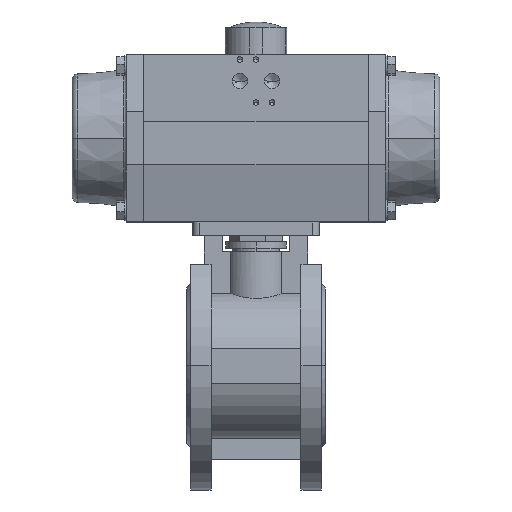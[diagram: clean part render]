
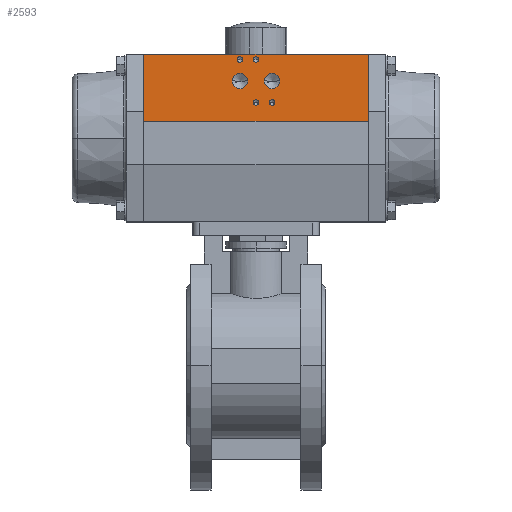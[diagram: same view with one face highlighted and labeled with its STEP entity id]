
A CAD part, top view. The second image highlights one B-rep face of the part: STEP entity #2593.
In plain terms, the highlighted planar face has unit normal (0, 0, 1) as drawn and (1, 0, 0) by its records, which use the part's own axes.
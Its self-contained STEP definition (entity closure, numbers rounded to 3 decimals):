
#410 = CARTESIAN_POINT ( 'NONE',  ( 57.5, 12.5, -83.75 ) ) ;
#413 = LINE ( 'NONE', #410, #5907 ) ;
#414 = LINE ( 'NONE', #421, #5905 ) ;
#416 = LINE ( 'NONE', #417, #5906 ) ;
#417 = CARTESIAN_POINT ( 'NONE',  ( 57.5, 12.5, 83.75 ) ) ;
#418 = DIRECTION ( 'NONE',  ( 0., 1., 0. ) ) ;
#420 = DIRECTION ( 'NONE',  ( 0., 0., 1. ) ) ;
#421 = CARTESIAN_POINT ( 'NONE',  ( 57.5, 12.5, -83.75 ) ) ;
#423 = DIRECTION ( 'NONE',  ( 0., 1., 0. ) ) ;
#1821 = CARTESIAN_POINT ( 'NONE',  ( 57.5, 12.5, 83.75 ) ) ;
#1823 = CARTESIAN_POINT ( 'NONE',  ( 57.5, 62.5, 83.75 ) ) ;
#1824 = CARTESIAN_POINT ( 'NONE',  ( 57.5, 62.5, -83.75 ) ) ;
#1829 = CARTESIAN_POINT ( 'NONE',  ( 57.5, 12.5, -83.75 ) ) ;
#1965 = CARTESIAN_POINT ( 'NONE',  ( 57.5, 42.5, 6.277 ) ) ;
#1966 = CARTESIAN_POINT ( 'NONE',  ( 57.5, 42.5, 17.722 ) ) ;
#2416 = EDGE_CURVE ( 'NONE', #3753, #3754, #13003, .T. ) ;
#2417 = EDGE_CURVE ( 'NONE', #3748, #3749, #12999, .T. ) ;
#2418 = EDGE_CURVE ( 'NONE', #3662, #3663, #12996, .T. ) ;
#2593 = ADVANCED_FACE ( 'NONE', ( #9005, #9001, #9008, #9010, #9004, #9006, #9007 ), #9009, .T. ) ;
#2847 = EDGE_CURVE ( 'NONE', #3518, #3520, #416, .T. ) ;
#2848 = EDGE_CURVE ( 'NONE', #3526, #3518, #413, .T. ) ;
#2849 = EDGE_CURVE ( 'NONE', #3526, #3521, #414, .T. ) ;
#3518 = VERTEX_POINT ( 'NONE', #1821 ) ;
#3520 = VERTEX_POINT ( 'NONE', #1823 ) ;
#3521 = VERTEX_POINT ( 'NONE', #1824 ) ;
#3526 = VERTEX_POINT ( 'NONE', #1829 ) ;
#3662 = VERTEX_POINT ( 'NONE', #1965 ) ;
#3663 = VERTEX_POINT ( 'NONE', #1966 ) ;
#3748 = VERTEX_POINT ( 'NONE', #10104 ) ;
#3749 = VERTEX_POINT ( 'NONE', #10105 ) ;
#3753 = VERTEX_POINT ( 'NONE', #10092 ) ;
#3754 = VERTEX_POINT ( 'NONE', #10108 ) ;
#3758 = VERTEX_POINT ( 'NONE', #10112 ) ;
#3759 = VERTEX_POINT ( 'NONE', #10113 ) ;
#3763 = VERTEX_POINT ( 'NONE', #10117 ) ;
#3764 = VERTEX_POINT ( 'NONE', #10118 ) ;
#3768 = VERTEX_POINT ( 'NONE', #10122 ) ;
#3769 = VERTEX_POINT ( 'NONE', #10123 ) ;
#4146 = CARTESIAN_POINT ( 'NONE',  ( 57.5, 42.5, -12. ) ) ;
#4147 = DIRECTION ( 'NONE',  ( 1., 0., 0. ) ) ;
#4148 = DIRECTION ( 'NONE',  ( 0., 0., -1. ) ) ;
#4165 = CARTESIAN_POINT ( 'NONE',  ( 57.5, 42.5, 12. ) ) ;
#4166 = DIRECTION ( 'NONE',  ( 1., 0., 0. ) ) ;
#4167 = DIRECTION ( 'NONE',  ( 0., 0., -1. ) ) ;
#5905 = VECTOR ( 'NONE', #423, 1000. ) ;
#5906 = VECTOR ( 'NONE', #418, 1000. ) ;
#5907 = VECTOR ( 'NONE', #420, 1000. ) ;
#6249 = CARTESIAN_POINT ( 'NONE',  ( 57.5, 58.5, 0. ) ) ;
#6250 = DIRECTION ( 'NONE',  ( 1., 0., 0. ) ) ;
#6251 = DIRECTION ( 'NONE',  ( 0., 0., -1. ) ) ;
#6253 = CARTESIAN_POINT ( 'NONE',  ( 57.5, 42.5, -12. ) ) ;
#6254 = DIRECTION ( 'NONE',  ( 1., 0., 0. ) ) ;
#6255 = DIRECTION ( 'NONE',  ( 0., 0., -1. ) ) ;
#6258 = CARTESIAN_POINT ( 'NONE',  ( 57.5, 42.5, 12. ) ) ;
#6259 = DIRECTION ( 'NONE',  ( 1., 0., 0. ) ) ;
#6260 = DIRECTION ( 'NONE',  ( 0., 0., -1. ) ) ;
#6679 = EDGE_LOOP ( 'NONE', ( #11285, #11284, #11283, #11282 ) ) ;
#6680 = EDGE_LOOP ( 'NONE', ( #11293, #11292 ) ) ;
#6681 = EDGE_LOOP ( 'NONE', ( #11289, #11288 ) ) ;
#6682 = EDGE_LOOP ( 'NONE', ( #11297, #11296 ) ) ;
#6683 = EDGE_LOOP ( 'NONE', ( #11291, #11290 ) ) ;
#6687 = EDGE_LOOP ( 'NONE', ( #11287, #11286 ) ) ;
#6688 = EDGE_LOOP ( 'NONE', ( #11295, #11294 ) ) ;
#7005 = EDGE_CURVE ( 'NONE', #3769, #3768, #13464, .T. ) ;
#8471 = EDGE_CURVE ( 'NONE', #3521, #3520, #15804, .T. ) ;
#8473 = EDGE_CURVE ( 'NONE', #3768, #3769, #13878, .T. ) ;
#8474 = EDGE_CURVE ( 'NONE', #3763, #3764, #13879, .T. ) ;
#8475 = EDGE_CURVE ( 'NONE', #3758, #3759, #13873, .T. ) ;
#8509 = EDGE_CURVE ( 'NONE', #3764, #3763, #13923, .T. ) ;
#8517 = EDGE_CURVE ( 'NONE', #3759, #3758, #13937, .T. ) ;
#8523 = EDGE_CURVE ( 'NONE', #3754, #3753, #13945, .T. ) ;
#8530 = EDGE_CURVE ( 'NONE', #3749, #3748, #13955, .T. ) ;
#8536 = EDGE_CURVE ( 'NONE', #3663, #3662, #13963, .T. ) ;
#8997 = CARTESIAN_POINT ( 'NONE',  ( 57.5, 12.5, -83.75 ) ) ;
#9001 = FACE_BOUND ( 'NONE', #6688, .T. ) ;
#9004 = FACE_BOUND ( 'NONE', #6681, .T. ) ;
#9005 = FACE_BOUND ( 'NONE', #6682, .T. ) ;
#9006 = FACE_BOUND ( 'NONE', #6687, .T. ) ;
#9007 = FACE_OUTER_BOUND ( 'NONE', #6679, .T. ) ;
#9008 = FACE_BOUND ( 'NONE', #6680, .T. ) ;
#9009 = PLANE ( 'NONE',  #9763 ) ;
#9010 = FACE_BOUND ( 'NONE', #6683, .T. ) ;
#9013 = DIRECTION ( 'NONE',  ( 1., 0., 0. ) ) ;
#9014 = DIRECTION ( 'NONE',  ( 0., 1., 0. ) ) ;
#9763 = AXIS2_PLACEMENT_3D ( 'NONE', #8997, #9013, #9014 ) ;
#10092 = CARTESIAN_POINT ( 'NONE',  ( 57.5, 58.5, -2.1 ) ) ;
#10104 = CARTESIAN_POINT ( 'NONE',  ( 57.5, 42.5, -17.722 ) ) ;
#10105 = CARTESIAN_POINT ( 'NONE',  ( 57.5, 42.5, -6.277 ) ) ;
#10108 = CARTESIAN_POINT ( 'NONE',  ( 57.5, 58.5, 2.1 ) ) ;
#10112 = CARTESIAN_POINT ( 'NONE',  ( 57.5, 26.5, -2.1 ) ) ;
#10113 = CARTESIAN_POINT ( 'NONE',  ( 57.5, 26.5, 2.1 ) ) ;
#10117 = CARTESIAN_POINT ( 'NONE',  ( 57.5, 26.5, -14.1 ) ) ;
#10118 = CARTESIAN_POINT ( 'NONE',  ( 57.5, 26.5, -9.9 ) ) ;
#10122 = CARTESIAN_POINT ( 'NONE',  ( 57.5, 58.5, 9.9 ) ) ;
#10123 = CARTESIAN_POINT ( 'NONE',  ( 57.5, 58.5, 14.1 ) ) ;
#10742 = CARTESIAN_POINT ( 'NONE',  ( 57.5, 58.5, 12. ) ) ;
#10743 = DIRECTION ( 'NONE',  ( 1., 0., 0. ) ) ;
#10744 = DIRECTION ( 'NONE',  ( 0., 0., -1. ) ) ;
#11282 = ORIENTED_EDGE ( 'NONE', *, *, #2849, .T. ) ;
#11283 = ORIENTED_EDGE ( 'NONE', *, *, #2848, .F. ) ;
#11284 = ORIENTED_EDGE ( 'NONE', *, *, #2847, .F. ) ;
#11285 = ORIENTED_EDGE ( 'NONE', *, *, #8471, .T. ) ;
#11286 = ORIENTED_EDGE ( 'NONE', *, *, #8536, .F. ) ;
#11287 = ORIENTED_EDGE ( 'NONE', *, *, #2418, .F. ) ;
#11288 = ORIENTED_EDGE ( 'NONE', *, *, #8530, .F. ) ;
#11289 = ORIENTED_EDGE ( 'NONE', *, *, #2417, .F. ) ;
#11290 = ORIENTED_EDGE ( 'NONE', *, *, #8523, .F. ) ;
#11291 = ORIENTED_EDGE ( 'NONE', *, *, #2416, .F. ) ;
#11292 = ORIENTED_EDGE ( 'NONE', *, *, #8517, .F. ) ;
#11293 = ORIENTED_EDGE ( 'NONE', *, *, #8475, .F. ) ;
#11294 = ORIENTED_EDGE ( 'NONE', *, *, #8509, .F. ) ;
#11295 = ORIENTED_EDGE ( 'NONE', *, *, #8474, .F. ) ;
#11296 = ORIENTED_EDGE ( 'NONE', *, *, #7005, .F. ) ;
#11297 = ORIENTED_EDGE ( 'NONE', *, *, #8473, .F. ) ;
#12988 = AXIS2_PLACEMENT_3D ( 'NONE', #6258, #6259, #6260 ) ;
#12990 = AXIS2_PLACEMENT_3D ( 'NONE', #6253, #6254, #6255 ) ;
#12993 = AXIS2_PLACEMENT_3D ( 'NONE', #6249, #6250, #6251 ) ;
#12996 = CIRCLE ( 'NONE', #12988, 5.722 ) ;
#12999 = CIRCLE ( 'NONE', #12990, 5.722 ) ;
#13003 = CIRCLE ( 'NONE', #12993, 2.1 ) ;
#13464 = CIRCLE ( 'NONE', #13470, 2.1 ) ;
#13470 = AXIS2_PLACEMENT_3D ( 'NONE', #10742, #10743, #10744 ) ;
#13873 = CIRCLE ( 'NONE', #13884, 2.1 ) ;
#13876 = VECTOR ( 'NONE', #15806, 1000. ) ;
#13878 = CIRCLE ( 'NONE', #13880, 2.1 ) ;
#13879 = CIRCLE ( 'NONE', #13882, 2.1 ) ;
#13880 = AXIS2_PLACEMENT_3D ( 'NONE', #15811, #15812, #15813 ) ;
#13882 = AXIS2_PLACEMENT_3D ( 'NONE', #15815, #15816, #15817 ) ;
#13884 = AXIS2_PLACEMENT_3D ( 'NONE', #15820, #15821, #15822 ) ;
#13923 = CIRCLE ( 'NONE', #13926, 2.1 ) ;
#13926 = AXIS2_PLACEMENT_3D ( 'NONE', #15998, #15999, #16000 ) ;
#13937 = CIRCLE ( 'NONE', #13941, 2.1 ) ;
#13941 = AXIS2_PLACEMENT_3D ( 'NONE', #16022, #16023, #16024 ) ;
#13945 = CIRCLE ( 'NONE', #13949, 2.1 ) ;
#13949 = AXIS2_PLACEMENT_3D ( 'NONE', #16039, #16040, #16041 ) ;
#13955 = CIRCLE ( 'NONE', #13959, 5.722 ) ;
#13959 = AXIS2_PLACEMENT_3D ( 'NONE', #4146, #4147, #4148 ) ;
#13963 = CIRCLE ( 'NONE', #13967, 5.722 ) ;
#13967 = AXIS2_PLACEMENT_3D ( 'NONE', #4165, #4166, #4167 ) ;
#15804 = LINE ( 'NONE', #15805, #13876 ) ;
#15805 = CARTESIAN_POINT ( 'NONE',  ( 57.5, 62.5, -83.75 ) ) ;
#15806 = DIRECTION ( 'NONE',  ( 0., 0., 1. ) ) ;
#15811 = CARTESIAN_POINT ( 'NONE',  ( 57.5, 58.5, 12. ) ) ;
#15812 = DIRECTION ( 'NONE',  ( 1., 0., 0. ) ) ;
#15813 = DIRECTION ( 'NONE',  ( 0., 0., -1. ) ) ;
#15815 = CARTESIAN_POINT ( 'NONE',  ( 57.5, 26.5, -12. ) ) ;
#15816 = DIRECTION ( 'NONE',  ( 1., 0., 0. ) ) ;
#15817 = DIRECTION ( 'NONE',  ( 0., 0., -1. ) ) ;
#15820 = CARTESIAN_POINT ( 'NONE',  ( 57.5, 26.5, 0. ) ) ;
#15821 = DIRECTION ( 'NONE',  ( 1., 0., 0. ) ) ;
#15822 = DIRECTION ( 'NONE',  ( 0., 0., -1. ) ) ;
#15998 = CARTESIAN_POINT ( 'NONE',  ( 57.5, 26.5, -12. ) ) ;
#15999 = DIRECTION ( 'NONE',  ( 1., 0., 0. ) ) ;
#16000 = DIRECTION ( 'NONE',  ( 0., 0., -1. ) ) ;
#16022 = CARTESIAN_POINT ( 'NONE',  ( 57.5, 26.5, 0. ) ) ;
#16023 = DIRECTION ( 'NONE',  ( 1., 0., 0. ) ) ;
#16024 = DIRECTION ( 'NONE',  ( 0., 0., -1. ) ) ;
#16039 = CARTESIAN_POINT ( 'NONE',  ( 57.5, 58.5, 0. ) ) ;
#16040 = DIRECTION ( 'NONE',  ( 1., 0., 0. ) ) ;
#16041 = DIRECTION ( 'NONE',  ( 0., 0., -1. ) ) ;
